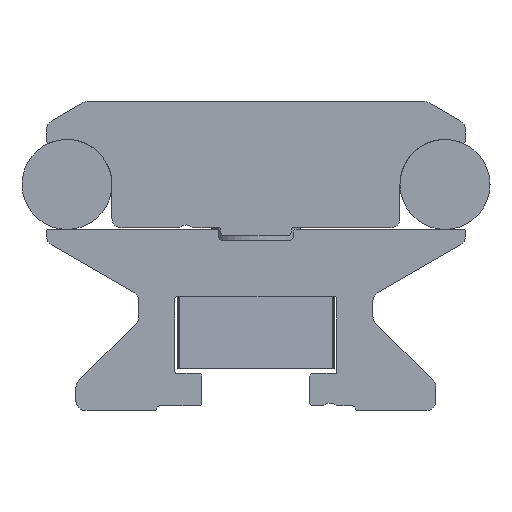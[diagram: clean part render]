
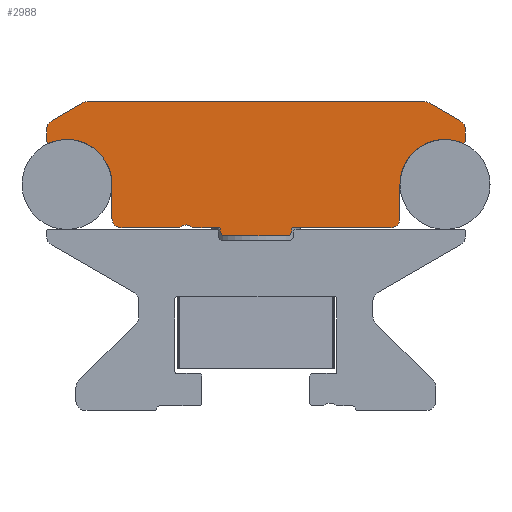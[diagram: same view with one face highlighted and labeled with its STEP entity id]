
A CAD part, left-side view. The second image highlights one B-rep face of the part: STEP entity #2988.
In plain terms, the highlighted planar face has unit normal (-1, 0, 0).
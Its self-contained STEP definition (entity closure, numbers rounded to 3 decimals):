
#115=PLANE('',#3319);
#175=CIRCLE('',#3222,0.5);
#176=CIRCLE('',#3224,0.5);
#184=CIRCLE('',#3251,1.);
#191=CIRCLE('',#3260,1.);
#193=CIRCLE('',#3264,1.);
#195=CIRCLE('',#3268,0.2);
#197=CIRCLE('',#3271,5.);
#199=CIRCLE('',#3275,1.);
#201=CIRCLE('',#3279,1.);
#207=CIRCLE('',#3287,0.2);
#211=CIRCLE('',#3297,0.2);
#218=CIRCLE('',#3306,1.);
#220=CIRCLE('',#3310,5.);
#222=CIRCLE('',#3313,0.2);
#224=CIRCLE('',#3317,1.);
#624=ORIENTED_EDGE('',*,*,#1325,.T.);
#625=ORIENTED_EDGE('',*,*,#1334,.T.);
#626=ORIENTED_EDGE('',*,*,#1337,.T.);
#627=ORIENTED_EDGE('',*,*,#1340,.T.);
#628=ORIENTED_EDGE('',*,*,#1343,.T.);
#629=ORIENTED_EDGE('',*,*,#1346,.T.);
#630=ORIENTED_EDGE('',*,*,#1349,.T.);
#631=ORIENTED_EDGE('',*,*,#1352,.T.);
#632=ORIENTED_EDGE('',*,*,#1355,.T.);
#633=ORIENTED_EDGE('',*,*,#1358,.T.);
#634=ORIENTED_EDGE('',*,*,#1361,.T.);
#635=ORIENTED_EDGE('',*,*,#1364,.T.);
#636=ORIENTED_EDGE('',*,*,#1371,.T.);
#637=ORIENTED_EDGE('',*,*,#1374,.T.);
#638=ORIENTED_EDGE('',*,*,#1260,.T.);
#639=ORIENTED_EDGE('',*,*,#1263,.T.);
#640=ORIENTED_EDGE('',*,*,#1381,.T.);
#641=ORIENTED_EDGE('',*,*,#1267,.T.);
#642=ORIENTED_EDGE('',*,*,#1386,.T.);
#643=ORIENTED_EDGE('',*,*,#1389,.T.);
#644=ORIENTED_EDGE('',*,*,#1393,.T.);
#645=ORIENTED_EDGE('',*,*,#1400,.T.);
#646=ORIENTED_EDGE('',*,*,#1403,.T.);
#647=ORIENTED_EDGE('',*,*,#1406,.T.);
#648=ORIENTED_EDGE('',*,*,#1409,.T.);
#649=ORIENTED_EDGE('',*,*,#1412,.T.);
#650=ORIENTED_EDGE('',*,*,#1415,.T.);
#651=ORIENTED_EDGE('',*,*,#1417,.T.);
#1260=EDGE_CURVE('',#1680,#1683,#1969,.T.);
#1263=EDGE_CURVE('',#1683,#1685,#175,.T.);
#1267=EDGE_CURVE('',#1686,#1689,#176,.T.);
#1325=EDGE_CURVE('',#1731,#1730,#184,.T.);
#1334=EDGE_CURVE('',#1730,#1738,#2006,.T.);
#1337=EDGE_CURVE('',#1738,#1740,#191,.T.);
#1340=EDGE_CURVE('',#1740,#1742,#2010,.T.);
#1343=EDGE_CURVE('',#1742,#1744,#193,.T.);
#1346=EDGE_CURVE('',#1744,#1746,#2014,.T.);
#1349=EDGE_CURVE('',#1746,#1748,#195,.T.);
#1352=EDGE_CURVE('',#1748,#1750,#197,.T.);
#1355=EDGE_CURVE('',#1750,#1752,#2019,.T.);
#1358=EDGE_CURVE('',#1752,#1754,#199,.T.);
#1361=EDGE_CURVE('',#1754,#1756,#2023,.T.);
#1364=EDGE_CURVE('',#1756,#1758,#201,.T.);
#1371=EDGE_CURVE('',#1758,#1760,#2026,.T.);
#1374=EDGE_CURVE('',#1760,#1680,#207,.T.);
#1381=EDGE_CURVE('',#1685,#1686,#2031,.T.);
#1386=EDGE_CURVE('',#1689,#1764,#2034,.T.);
#1389=EDGE_CURVE('',#1764,#1766,#211,.T.);
#1393=EDGE_CURVE('',#1766,#1768,#2038,.T.);
#1400=EDGE_CURVE('',#1768,#1770,#218,.T.);
#1403=EDGE_CURVE('',#1770,#1772,#2042,.T.);
#1406=EDGE_CURVE('',#1772,#1774,#220,.T.);
#1409=EDGE_CURVE('',#1774,#1776,#222,.T.);
#1412=EDGE_CURVE('',#1776,#1778,#2047,.T.);
#1415=EDGE_CURVE('',#1778,#1780,#224,.T.);
#1417=EDGE_CURVE('',#1780,#1731,#2050,.T.);
#1680=VERTEX_POINT('',#4563);
#1683=VERTEX_POINT('',#4568);
#1685=VERTEX_POINT('',#4578);
#1686=VERTEX_POINT('',#4582);
#1689=VERTEX_POINT('',#4591);
#1730=VERTEX_POINT('',#4777);
#1731=VERTEX_POINT('',#4779);
#1738=VERTEX_POINT('',#4795);
#1740=VERTEX_POINT('',#4801);
#1742=VERTEX_POINT('',#4807);
#1744=VERTEX_POINT('',#4813);
#1746=VERTEX_POINT('',#4819);
#1748=VERTEX_POINT('',#4825);
#1750=VERTEX_POINT('',#4831);
#1752=VERTEX_POINT('',#4837);
#1754=VERTEX_POINT('',#4843);
#1756=VERTEX_POINT('',#4849);
#1758=VERTEX_POINT('',#4855);
#1760=VERTEX_POINT('',#4865);
#1764=VERTEX_POINT('',#4901);
#1766=VERTEX_POINT('',#4910);
#1768=VERTEX_POINT('',#4917);
#1770=VERTEX_POINT('',#4927);
#1772=VERTEX_POINT('',#4933);
#1774=VERTEX_POINT('',#4939);
#1776=VERTEX_POINT('',#4945);
#1778=VERTEX_POINT('',#4951);
#1780=VERTEX_POINT('',#4957);
#1969=LINE('',#4569,#2223);
#2006=LINE('',#4796,#2260);
#2010=LINE('',#4808,#2264);
#2014=LINE('',#4820,#2268);
#2019=LINE('',#4838,#2273);
#2023=LINE('',#4850,#2277);
#2026=LINE('',#4866,#2280);
#2031=LINE('',#4889,#2285);
#2034=LINE('',#4902,#2288);
#2038=LINE('',#4918,#2292);
#2042=LINE('',#4934,#2296);
#2047=LINE('',#4952,#2301);
#2050=LINE('',#4961,#2304);
#2223=VECTOR('',#3592,1000.);
#2260=VECTOR('',#3703,1000.);
#2264=VECTOR('',#3715,1000.);
#2268=VECTOR('',#3727,1000.);
#2273=VECTOR('',#3746,1000.);
#2277=VECTOR('',#3758,1000.);
#2280=VECTOR('',#3779,1000.);
#2285=VECTOR('',#3798,1000.);
#2288=VECTOR('',#3807,1000.);
#2292=VECTOR('',#3819,1000.);
#2296=VECTOR('',#3839,1000.);
#2301=VECTOR('',#3858,1000.);
#2304=VECTOR('',#3869,1000.);
#2513=EDGE_LOOP('',(#624,#625,#626,#627,#628,#629,#630,#631,#632,#633,#634,
#635,#636,#637,#638,#639,#640,#641,#642,#643,#644,#645,#646,#647,#648,#649,
#650,#651));
#2713=FACE_BOUND('',#2513,.T.);
#2988=ADVANCED_FACE('',(#2713),#115,.T.);
#3222=AXIS2_PLACEMENT_3D('',#4579,#3596,#3597);
#3224=AXIS2_PLACEMENT_3D('',#4592,#3602,#3603);
#3251=AXIS2_PLACEMENT_3D('',#4778,#3686,#3687);
#3260=AXIS2_PLACEMENT_3D('',#4802,#3709,#3710);
#3264=AXIS2_PLACEMENT_3D('',#4814,#3721,#3722);
#3268=AXIS2_PLACEMENT_3D('',#4826,#3733,#3734);
#3271=AXIS2_PLACEMENT_3D('',#4832,#3740,#3741);
#3275=AXIS2_PLACEMENT_3D('',#4844,#3752,#3753);
#3279=AXIS2_PLACEMENT_3D('',#4856,#3764,#3765);
#3287=AXIS2_PLACEMENT_3D('',#4873,#3783,#3784);
#3297=AXIS2_PLACEMENT_3D('',#4911,#3811,#3812);
#3306=AXIS2_PLACEMENT_3D('',#4928,#3833,#3834);
#3310=AXIS2_PLACEMENT_3D('',#4940,#3845,#3846);
#3313=AXIS2_PLACEMENT_3D('',#4946,#3852,#3853);
#3317=AXIS2_PLACEMENT_3D('',#4958,#3864,#3865);
#3319=AXIS2_PLACEMENT_3D('',#4962,#3870,#3871);
#3592=DIRECTION('',(0.,0.,-1.));
#3596=DIRECTION('',(-1.,0.,0.));
#3597=DIRECTION('',(0.,-1.,0.));
#3602=DIRECTION('',(-1.,0.,0.));
#3603=DIRECTION('',(0.,1.,0.));
#3686=DIRECTION('',(-1.,0.,0.));
#3687=DIRECTION('',(0.,1.,0.));
#3703=DIRECTION('',(0.,1.,0.));
#3709=DIRECTION('',(-1.,0.,0.));
#3710=DIRECTION('',(0.,1.,0.));
#3715=DIRECTION('',(0.,0.866,-0.5));
#3721=DIRECTION('',(-1.,0.,0.));
#3722=DIRECTION('',(0.,-1.,0.));
#3727=DIRECTION('',(0.,0.,-1.));
#3733=DIRECTION('',(-1.,0.,0.));
#3734=DIRECTION('',(0.,-1.,0.));
#3740=DIRECTION('',(1.,0.,0.));
#3741=DIRECTION('',(0.,1.,0.));
#3746=DIRECTION('',(0.,0.,-1.));
#3752=DIRECTION('',(-1.,0.,0.));
#3753=DIRECTION('',(0.,-1.,0.));
#3758=DIRECTION('',(0.,-1.,0.));
#3764=DIRECTION('',(1.,0.,0.));
#3765=DIRECTION('',(0.,1.,0.));
#3779=DIRECTION('',(0.,-1.,0.));
#3783=DIRECTION('',(1.,0.,0.));
#3784=DIRECTION('',(0.,1.,0.));
#3798=DIRECTION('',(0.,-1.,0.));
#3807=DIRECTION('',(0.,0.,1.));
#3811=DIRECTION('',(1.,0.,0.));
#3812=DIRECTION('',(0.,1.,0.));
#3819=DIRECTION('',(0.,-1.,0.));
#3833=DIRECTION('',(-1.,0.,0.));
#3834=DIRECTION('',(0.,1.,0.));
#3839=DIRECTION('',(0.,0.,1.));
#3845=DIRECTION('',(1.,0.,0.));
#3846=DIRECTION('',(0.,1.,0.));
#3852=DIRECTION('',(-1.,0.,0.));
#3853=DIRECTION('',(0.,1.,0.));
#3858=DIRECTION('',(0.,0.,1.));
#3864=DIRECTION('',(-1.,0.,0.));
#3865=DIRECTION('',(0.,1.,0.));
#3869=DIRECTION('',(0.,0.866,0.5));
#3870=DIRECTION('',(-1.,0.,0.));
#3871=DIRECTION('',(0.,-1.,0.));
#4563=CARTESIAN_POINT('',(-700.,153.34,114.944));
#4568=CARTESIAN_POINT('',(-700.,153.34,114.744));
#4569=CARTESIAN_POINT('',(-700.,153.34,114.944));
#4578=CARTESIAN_POINT('',(-700.,152.84,114.244));
#4579=CARTESIAN_POINT('',(-700.,152.84,114.744));
#4582=CARTESIAN_POINT('',(-700.,145.94,114.244));
#4591=CARTESIAN_POINT('',(-700.,145.44,114.744));
#4592=CARTESIAN_POINT('',(-700.,145.94,114.744));
#4777=CARTESIAN_POINT('',(-700.,130.64,129.144));
#4778=CARTESIAN_POINT('',(-700.,130.64,128.144));
#4779=CARTESIAN_POINT('',(-700.,130.14,129.01));
#4795=CARTESIAN_POINT('',(-700.,168.14,129.144));
#4796=CARTESIAN_POINT('',(-700.,130.64,129.144));
#4801=CARTESIAN_POINT('',(-700.,168.64,129.01));
#4802=CARTESIAN_POINT('',(-700.,168.14,128.144));
#4807=CARTESIAN_POINT('',(-700.,172.14,126.989));
#4808=CARTESIAN_POINT('',(-700.,168.64,129.01));
#4813=CARTESIAN_POINT('',(-700.,172.64,126.123));
#4814=CARTESIAN_POINT('',(-700.,171.64,126.123));
#4819=CARTESIAN_POINT('',(-700.,172.64,124.723));
#4820=CARTESIAN_POINT('',(-700.,172.64,126.123));
#4825=CARTESIAN_POINT('',(-700.,172.361,124.539));
#4826=CARTESIAN_POINT('',(-700.,172.44,124.723));
#4831=CARTESIAN_POINT('',(-700.,165.39,119.944));
#4832=CARTESIAN_POINT('',(-700.,170.39,119.944));
#4837=CARTESIAN_POINT('',(-700.,165.39,116.144));
#4838=CARTESIAN_POINT('',(-700.,165.39,119.944));
#4843=CARTESIAN_POINT('',(-700.,164.39,115.144));
#4844=CARTESIAN_POINT('',(-700.,164.39,116.144));
#4849=CARTESIAN_POINT('',(-700.,157.854,115.144));
#4850=CARTESIAN_POINT('',(-700.,164.39,115.144));
#4855=CARTESIAN_POINT('',(-700.,156.426,115.144));
#4856=CARTESIAN_POINT('',(-700.,157.14,114.444));
#4865=CARTESIAN_POINT('',(-700.,153.54,115.144));
#4866=CARTESIAN_POINT('',(-700.,156.426,115.144));
#4873=CARTESIAN_POINT('',(-700.,153.54,114.944));
#4889=CARTESIAN_POINT('',(-700.,152.84,114.244));
#4901=CARTESIAN_POINT('',(-700.,145.44,114.944));
#4902=CARTESIAN_POINT('',(-700.,145.44,114.744));
#4910=CARTESIAN_POINT('',(-700.,145.24,115.144));
#4911=CARTESIAN_POINT('',(-700.,145.24,114.944));
#4917=CARTESIAN_POINT('',(-700.,134.39,115.144));
#4918=CARTESIAN_POINT('',(-700.,145.24,115.144));
#4927=CARTESIAN_POINT('',(-700.,133.39,116.144));
#4928=CARTESIAN_POINT('',(-700.,134.39,116.144));
#4933=CARTESIAN_POINT('',(-700.,133.39,119.944));
#4934=CARTESIAN_POINT('',(-700.,133.39,116.144));
#4939=CARTESIAN_POINT('',(-700.,126.419,124.539));
#4940=CARTESIAN_POINT('',(-700.,128.39,119.944));
#4945=CARTESIAN_POINT('',(-700.,126.14,124.723));
#4946=CARTESIAN_POINT('',(-700.,126.34,124.723));
#4951=CARTESIAN_POINT('',(-700.,126.14,126.123));
#4952=CARTESIAN_POINT('',(-700.,126.14,124.723));
#4957=CARTESIAN_POINT('',(-700.,126.64,126.989));
#4958=CARTESIAN_POINT('',(-700.,127.14,126.123));
#4961=CARTESIAN_POINT('',(-700.,126.64,126.989));
#4962=CARTESIAN_POINT('',(-700.,130.64,128.144));
